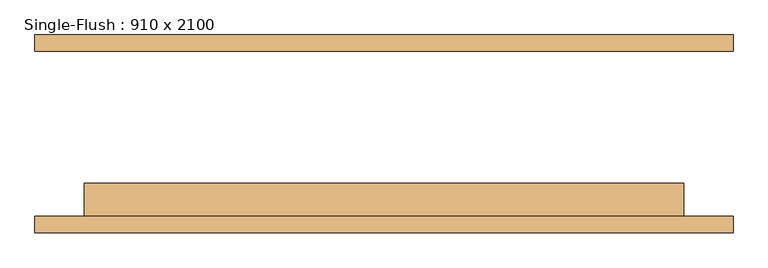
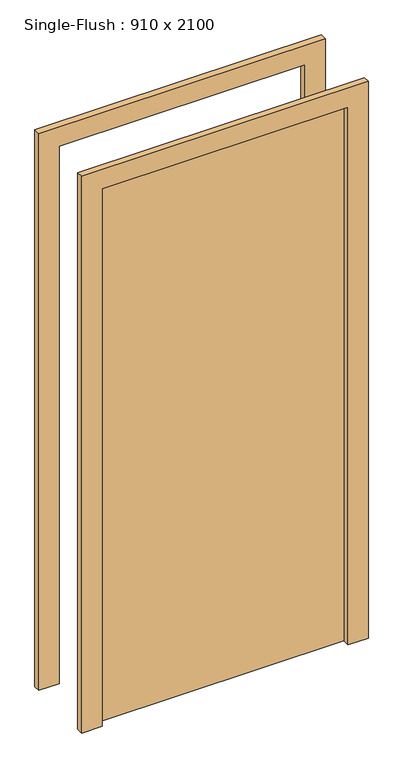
"""IFC4 building model written with IfcOpenShell, lengths in millimetres: door geometry, Single-Flush : 910 x 2100."""

from ifc_helpers import new_model, si_unit, frame, origin, origin_with_axes, place, context, project, spatial, polyline, outline, extrude, source, transform, mapped, element, save


def single_flush_910_x_2100_d28cb9d3(model_context):
    return source(origin(), model_context, "Body", "SweptSolid", [
        extrude(outline(polyline([(2175.0, -530.0), (0.0, -530.0), (0.0, -455.0), (2100.0, -455.0), (2100.0, 455.0), (0.0, 455.0), (0.0, 530.0), (2175.0, 530.0), (2175.0, -530.0)])), frame((0.0, -150.0, 0.0), z_axis=(0.0, 1.0, 0.0), x_axis=(0.0, 0.0, 1.0)), (0.0, 0.0, 1.0), 25.0),
        extrude(outline(polyline([(2175.0, 530.0), (2175.0, -530.0), (0.0, -530.0), (0.0, -455.0), (2100.0, -455.0), (2100.0, 455.0), (0.0, 455.0), (0.0, 530.0), (2175.0, 530.0)])), frame((0.0, 125.0, 0.0), z_axis=(0.0, 1.0, 0.0), x_axis=(0.0, 0.0, 1.0)), (0.0, 0.0, 1.0), 25.0),
        extrude(outline(polyline([(455.0, -75.0), (455.0, -125.0), (-455.0, -125.0), (-455.0, -75.0), (455.0, -75.0)])), origin_with_axes(), (0.0, 0.0, 1.0), 2100.0),
    ])


if __name__ == "__main__":
    model = new_model("IFC4")
    model_context = context("Model", 3, world=origin())
    ifc_project = project(units=[si_unit("LENGTHUNIT", "METRE", prefix="MILLI")], contexts=[model_context])
    site = spatial("IfcSite", under=ifc_project)
    building = spatial("IfcBuilding", under=site)
    placement = place(None, origin())
    single_flush_910_x_2100_shape = single_flush_910_x_2100_d28cb9d3(model_context)
    element("IfcDoor", 1, ObjectType="Single-Flush : 910 x 2100", at=placement, inside=building, context=model_context, shape_type="MappedRepresentation", body=[
        mapped(single_flush_910_x_2100_shape, transform((0.0, 0.0, 0.0), x_axis=(1.0, 0.0, 0.0), y_axis=(0.0, 1.0, 0.0), z_axis=(0.0, 0.0, 1.0))),
    ])
    save(model, "model.ifc")
